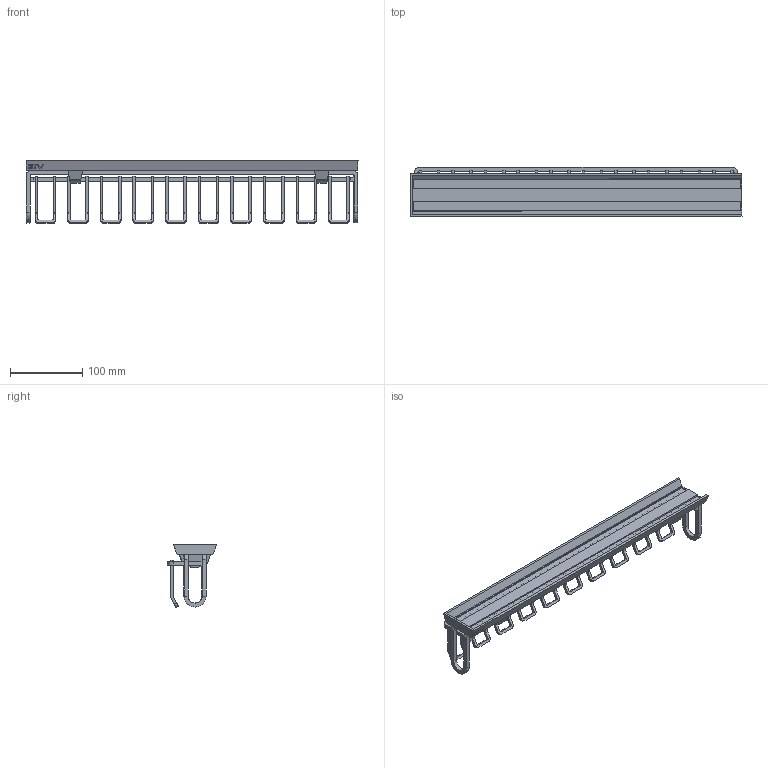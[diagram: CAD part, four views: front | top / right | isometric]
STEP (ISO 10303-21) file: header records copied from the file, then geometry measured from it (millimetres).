
FILE_DESCRIPTION(/* description */ (''),/* implementation_level */ '2;1');
FILE_NAME(/* name */ 'D:\$Workingspace\Designs\Meblowka\uproszczenia\garderoba smart\W-WKRP…-without slides.stp',/* time_stamp */ '2019-01-02T09:06:44+01:00',/* author */ ('tomaszw'),/* organization */ (''),/* preprocessor_version */ 'ST-DEVELOPER v17',/* originating_system */ 'Autodesk Inventor 2019',/* authorisation */ '');
FILE_SCHEMA (('AUTOMOTIVE_DESIGN { 1 0 10303 214 3 1 1 }'));
Length unit declared in the file: millimetre
Products named in the file (4): złożenie z uchwyt na krawaty i p
aski 11_2017_upr; PPD_2; druciak na krawaty oraz paski_upr; MD_1_02
Assembly tree (4 placements, depth 2):
  złożenie z uchwyt na krawaty i p
aski 11_2017_upr
    PPD_2
    MD_1_02  x2
    druciak na krawaty oraz paski_upr
Bounding box: 458.03 x 67.97 x 86.89 mm (x, y, z)
Volume: 175166.9 mm3; surface area: 156942.9 mm2
Topology: 15 solids, 15 shells, 404 faces, 1093 edges, 730 vertices
Faces by surface type: plane 282, cylinder 100, bspline 12, cone 10
Full cylindrical faces by diameter (mm): 4.3 x1, 8.3 x1
Entity records: 12363 total; most frequent: CARTESIAN_POINT 2301, ORIENTED_EDGE 2094, DIRECTION 2001, EDGE_CURVE 1047, LINE 813, VECTOR 813, VERTEX_POINT 692, AXIS2_PLACEMENT_3D 594
